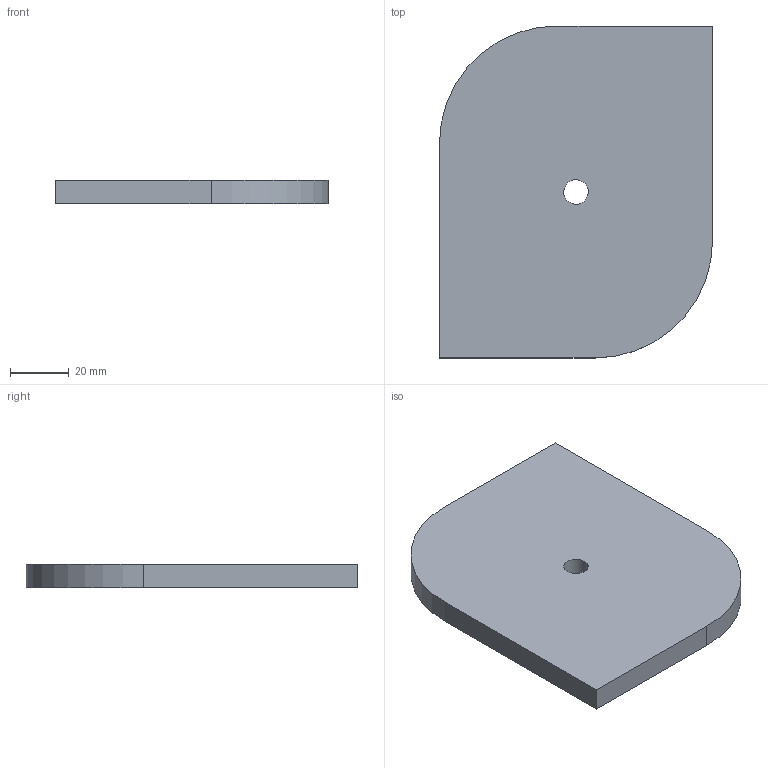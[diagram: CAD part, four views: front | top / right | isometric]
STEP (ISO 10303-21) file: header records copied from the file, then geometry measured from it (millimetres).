
FILE_DESCRIPTION(('CATIA V5 STEP Exchange'),'2;1');
FILE_NAME('C:\_Andres\UNIVERSIDAD\IQS\ASIGNATURAS\DAO\EXF\EXF-15161c\1original\Busquet_Ribera_Ej01-plano_v3.stp','2016-03-04T14:59:43+00:00',('none'),('none'),'CATIA Version 5 Release 20 SP 1 (IN-10)','CATIA V5 STEP AP203','none');
FILE_SCHEMA(('CONFIG_CONTROL_DESIGN'));
Length unit declared in the file: millimetre
Products named in the file (1): Busquet_Ribera_Ej01-plano_v3
Bounding box: 93 x 113 x 8 mm (x, y, z)
Volume: 78137.4 mm3; surface area: 22766.2 mm2
Topology: 1 solids, 1 shells, 10 faces, 24 edges, 16 vertices
Faces by surface type: plane 6, cylinder 4
Entity records: 333 total; most frequent: CARTESIAN_POINT 51, ORIENTED_EDGE 48, DIRECTION 44, EDGE_CURVE 24, AXIS2_PLACEMENT_3D 19, VECTOR 16, LINE 16, VERTEX_POINT 16
